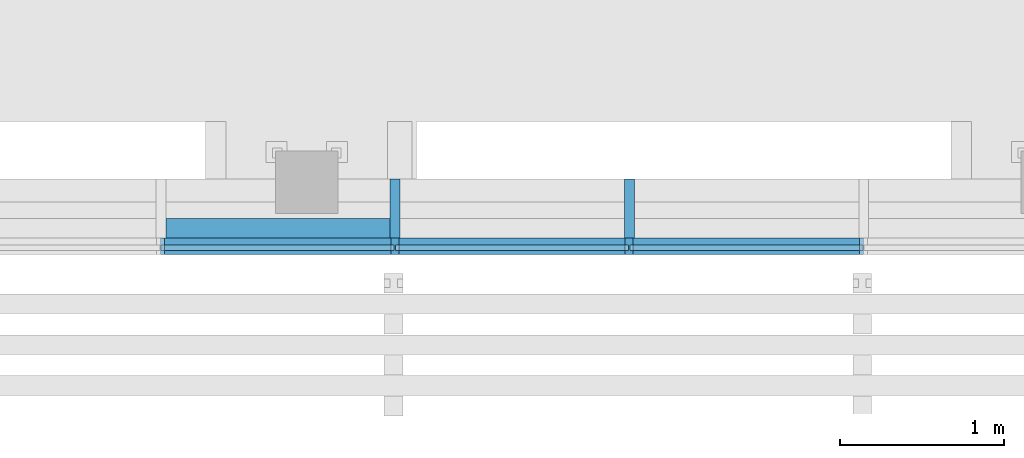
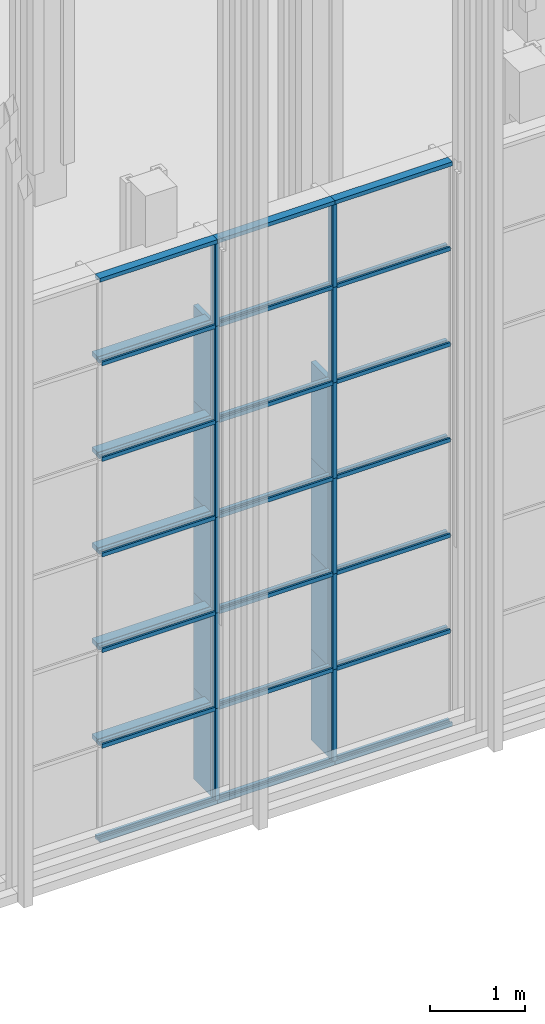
# One storey, part 13 of 260: 47 members, 2 elements without a shape of their own.
"""IFC2X3 building model written with IfcOpenShell, lengths in millimetres."""

from ifc_helpers import new_model, entity, si_unit, converted_unit, derived_unit, money_unit, direction, frame, origin_with_axes, place, context, subcontext, project, spatial, faceted_brep, source, transform, mapped, material, type_object, element, aggregate, save


model = new_model("IFC2X3")

# Units and contexts
model_context = context("Model", 3, precision=0.01, world=origin_with_axes(), true_north=direction((0.0, 1.0)))
body_context = subcontext(model_context, "Body", "Model", "MODEL_VIEW")
ifc_project = project(units=[si_unit("LENGTHUNIT", "METRE", prefix="MILLI"), si_unit("AREAUNIT", "SQUARE_METRE"), si_unit("VOLUMEUNIT", "CUBIC_METRE"), converted_unit("PLANEANGLEUNIT", "DEGREE", entity("IfcPlaneAngleMeasure", 0.0174532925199), si_unit("PLANEANGLEUNIT", "RADIAN"), dimensions=[0, 0, 0, 0, 0, 0, 0]), money_unit("EUR"), converted_unit("TIMEUNIT", "Year", entity("IfcTimeMeasure", 31556926.0), si_unit("TIMEUNIT", "SECOND"), dimensions=[0, 0, 1, 0, 0, 0, 0]), si_unit("MASSUNIT", "GRAM", prefix="KILO"), si_unit("THERMODYNAMICTEMPERATUREUNIT", "DEGREE_CELSIUS"), si_unit("LUMINOUSINTENSITYUNIT", "LUMEN"), si_unit("ENERGYUNIT", "JOULE", prefix="MEGA"), derived_unit("THERMALCONDUCTANCEUNIT", [(si_unit("POWERUNIT", "WATT"), 1), (si_unit("LENGTHUNIT", "METRE"), -1), (si_unit("THERMODYNAMICTEMPERATUREUNIT", "KELVIN"), -1)]), derived_unit("SPECIFICHEATCAPACITYUNIT", [(si_unit("ENERGYUNIT", "JOULE"), 1), (si_unit("MASSUNIT", "GRAM", prefix="KILO"), -1), (si_unit("THERMODYNAMICTEMPERATUREUNIT", "KELVIN"), -1)]), derived_unit("MASSDENSITYUNIT", [(si_unit("MASSUNIT", "GRAM", prefix="KILO"), 1), (si_unit("VOLUMEUNIT", "CUBIC_METRE"), -1)])], contexts=[model_context])

# Site, building, storey
site_placement = place(None, origin_with_axes())
site = spatial("IfcSite", under=ifc_project, at=site_placement, Name="Kolde pst 67a", CompositionType="ELEMENT")
building_placement = place(site_placement, origin_with_axes())
building = spatial("IfcBuilding", under=site, at=building_placement, Name="Riigigümnaasium", CompositionType="ELEMENT")
storey_placement = place(building_placement, origin_with_axes())
storey = spatial("IfcBuildingStorey", under=building, at=storey_placement, Name="1. korrus", CompositionType="ELEMENT", Elevation=0.0)

# Curtain wall, members
curtain_wall_type = type_object("IfcCurtainWallType", Name="Curtain Wall Type", PredefinedType="NOTDEFINED")
curtain_wall_1_placement = place(storey_placement, frame((47829.9854655, 8727.77020058, -0.000749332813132), z_axis=(0.0, 0.0, 1.0), x_axis=(1.0, 0.0, 0.0)))
curtain_wall_1 = element("IfcCurtainWall", 1, at=curtain_wall_1_placement, inside=storey, type_object=curtain_wall_type, Name="KLAASFASSAAD")
ifc_material_1 = material(Name="_METALL - alumiinium")
member_type_1 = type_object("IfcMemberType", Name="Mullion Frame 50 x 100", PredefinedType="MEMBER")
shared_shape_1 = source(origin_with_axes(), body_context, "Body", "Brep", [
    faceted_brep([(5.0, -16.5, 1230.00046362), (5.0, 16.5, 1230.00046362), (25.0, 16.5, 1230.00046362), (25.0, 40.0, 1230.00046362), (-25.0, 40.0, 1230.00046362), (-25.0, 16.5, 1230.00046362), (-5.0, 16.5, 1230.00046362), (-5.0, -16.5, 1230.00046362), (-25.0, -16.5, 1230.00046362), (-25.0, -60.0, 1230.00046362), (25.0, -60.0, 1230.00046362), (25.0, -16.5, 1230.00046362), (5.0, -16.5, 50.0), (5.0, 16.5, 50.0), (25.0, 16.5, 50.0), (25.0, 40.0, 50.0), (-25.0, 40.0, 50.0), (-25.0, 16.5, 50.0), (-5.0, 16.5, 50.0), (-5.0, -16.5, 50.0), (-25.0, -16.5, 50.0), (-25.0, -60.0, 50.0), (25.0, -60.0, 50.0), (25.0, -16.5, 50.0)], [[[0, 1, 2, 3, 4, 5, 6, 7, 8, 9, 10, 11]], [[0, 12, 13, 1]], [[1, 13, 14, 2]], [[14, 15, 3, 2]], [[4, 3, 15, 16]], [[17, 5, 4, 16]], [[5, 17, 18, 6]], [[7, 6, 18, 19]], [[8, 7, 19, 20]], [[8, 20, 21, 9]], [[10, 9, 21, 22]], [[11, 10, 22, 23]], [[11, 23, 12, 0]], [[13, 12, 23, 22, 21, 20, 19, 18, 17, 16, 15, 14]]]),
])
member_1_placement = place(curtain_wall_1_placement, frame((-14162.4150634, 15102.3915495, 0.000285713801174), z_axis=(0.0, 0.0, 1.0), x_axis=(0.999999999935, -1.14108152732e-05, 0.0)))
member_1 = element("IfcMember", 2, at=member_1_placement, type_object=member_type_1, material=ifc_material_1, Name="RF RAAM VERT-107", ObjectType="MEMBER", context=body_context, shape_type="MappedRepresentation", body=[
    mapped(shared_shape_1, transform((0.0, 0.0, 0.0), x_axis=(-1.0, 0.0, 0.0), y_axis=(0.0, -1.0, 0.0), z_axis=(0.0, 0.0, 1.0))),
])
member_2_placement = place(curtain_wall_1_placement, frame((-15592.4150633, 15102.407867, 0.000285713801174), z_axis=(0.0, 0.0, 1.0), x_axis=(0.999999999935, -1.14108152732e-05, 0.0)))
member_2 = element("IfcMember", 3, at=member_2_placement, type_object=member_type_1, material=ifc_material_1, Name="RF RAAM VERT-113", ObjectType="MEMBER", context=body_context, shape_type="MappedRepresentation", body=[
    mapped(shared_shape_1, transform((0.0, 0.0, 0.0), x_axis=(-1.0, 0.0, 0.0), y_axis=(0.0, -1.0, 0.0), z_axis=(0.0, 0.0, 1.0))),
])
shared_shape_2 = source(origin_with_axes(), body_context, "Body", "Brep", [
    faceted_brep([(5.0, -16.5, 1230.0), (5.0, 16.5, 1230.0), (25.0, 16.5, 1230.0), (25.0, 40.0, 1230.0), (-25.0, 40.0, 1230.0), (-25.0, 16.5, 1230.0), (-5.0, 16.5, 1230.0), (-5.0, -16.5, 1230.0), (-25.0, -16.5, 1230.0), (-25.0, -60.0, 1230.0), (25.0, -60.0, 1230.0), (25.0, -16.5, 1230.0), (5.0, -16.5, 0.0), (5.0, 16.5, 0.0), (25.0, 16.5, 0.0), (25.0, 40.0, 0.0), (-25.0, 40.0, 0.0), (-25.0, 16.5, 0.0), (-5.0, 16.5, 0.0), (-5.0, -16.5, 0.0), (-25.0, -16.5, 0.0), (-25.0, -60.0, 0.0), (25.0, -60.0, 0.0), (25.0, -16.5, 0.0)], [[[0, 1, 2, 3, 4, 5, 6, 7, 8, 9, 10, 11]], [[0, 12, 13, 1]], [[1, 13, 14, 2]], [[14, 15, 3, 2]], [[3, 15, 16, 4]], [[17, 5, 4, 16]], [[5, 17, 18, 6]], [[7, 6, 18, 19]], [[8, 7, 19, 20]], [[8, 20, 21, 9]], [[9, 21, 22, 10]], [[11, 10, 22, 23]], [[11, 23, 12, 0]], [[13, 12, 23, 22, 21, 20, 19, 18, 17, 16, 15, 14]]]),
])
member_3_placement = place(curtain_wall_1_placement, frame((-14162.4150634, 15102.3915495, 1230.00074933), z_axis=(0.0, 0.0, 1.0), x_axis=(0.999999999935, -1.14108152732e-05, 0.0)))
member_3 = element("IfcMember", 4, at=member_3_placement, type_object=member_type_1, material=ifc_material_1, Name="RF RAAM VERT-108", ObjectType="MEMBER", context=body_context, shape_type="MappedRepresentation", body=[
    mapped(shared_shape_2, transform((0.0, 0.0, 0.0), x_axis=(-1.0, 0.0, 0.0), y_axis=(0.0, -1.0, 0.0), z_axis=(0.0, 0.0, 1.0))),
])
member_4_placement = place(curtain_wall_1_placement, frame((-14162.4150634, 15102.3915495, 2460.00074933), z_axis=(0.0, 0.0, 1.0), x_axis=(0.999999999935, -1.14108152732e-05, 0.0)))
member_4 = element("IfcMember", 5, at=member_4_placement, type_object=member_type_1, material=ifc_material_1, Name="RF RAAM VERT-109", ObjectType="MEMBER", context=body_context, shape_type="MappedRepresentation", body=[
    mapped(shared_shape_2, transform((0.0, 0.0, 0.0), x_axis=(-1.0, 0.0, 0.0), y_axis=(0.0, -1.0, 0.0), z_axis=(0.0, 0.0, 1.0))),
])
member_5_placement = place(curtain_wall_1_placement, frame((-14162.4150634, 15102.3915495, 3690.00074933), z_axis=(0.0, 0.0, 1.0), x_axis=(0.999999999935, -1.14108152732e-05, 0.0)))
member_5 = element("IfcMember", 6, at=member_5_placement, type_object=member_type_1, material=ifc_material_1, Name="RF RAAM VERT-110", ObjectType="MEMBER", context=body_context, shape_type="MappedRepresentation", body=[
    mapped(shared_shape_2, transform((0.0, 0.0, 0.0), x_axis=(-1.0, 0.0, 0.0), y_axis=(0.0, -1.0, 0.0), z_axis=(0.0, 0.0, 1.0))),
])
member_6_placement = place(curtain_wall_1_placement, frame((-14162.4150634, 15102.3915495, 4920.00074933), z_axis=(0.0, 0.0, 1.0), x_axis=(0.999999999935, -1.14108152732e-05, 0.0)))
member_6 = element("IfcMember", 7, at=member_6_placement, type_object=member_type_1, material=ifc_material_1, Name="RF RAAM VERT-111", ObjectType="MEMBER", context=body_context, shape_type="MappedRepresentation", body=[
    mapped(shared_shape_2, transform((0.0, 0.0, 0.0), x_axis=(-1.0, 0.0, 0.0), y_axis=(0.0, -1.0, 0.0), z_axis=(0.0, 0.0, 1.0))),
])
member_7_placement = place(curtain_wall_1_placement, frame((-15592.4150633, 15102.407867, 1230.00074933), z_axis=(0.0, 0.0, 1.0), x_axis=(0.999999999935, -1.14108152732e-05, 0.0)))
member_7 = element("IfcMember", 8, at=member_7_placement, type_object=member_type_1, material=ifc_material_1, Name="RF RAAM VERT-114", ObjectType="MEMBER", context=body_context, shape_type="MappedRepresentation", body=[
    mapped(shared_shape_2, transform((0.0, 0.0, 0.0), x_axis=(-1.0, 0.0, 0.0), y_axis=(0.0, -1.0, 0.0), z_axis=(0.0, 0.0, 1.0))),
])
member_8_placement = place(curtain_wall_1_placement, frame((-15592.4150633, 15102.407867, 2460.00074933), z_axis=(0.0, 0.0, 1.0), x_axis=(0.999999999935, -1.14108152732e-05, 0.0)))
member_8 = element("IfcMember", 9, at=member_8_placement, type_object=member_type_1, material=ifc_material_1, Name="RF RAAM VERT-115", ObjectType="MEMBER", context=body_context, shape_type="MappedRepresentation", body=[
    mapped(shared_shape_2, transform((0.0, 0.0, 0.0), x_axis=(-1.0, 0.0, 0.0), y_axis=(0.0, -1.0, 0.0), z_axis=(0.0, 0.0, 1.0))),
])
member_9_placement = place(curtain_wall_1_placement, frame((-15592.4150633, 15102.407867, 3690.00074933), z_axis=(0.0, 0.0, 1.0), x_axis=(0.999999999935, -1.14108152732e-05, 0.0)))
member_9 = element("IfcMember", 10, at=member_9_placement, type_object=member_type_1, material=ifc_material_1, Name="RF RAAM VERT-116", ObjectType="MEMBER", context=body_context, shape_type="MappedRepresentation", body=[
    mapped(shared_shape_2, transform((0.0, 0.0, 0.0), x_axis=(-1.0, 0.0, 0.0), y_axis=(0.0, -1.0, 0.0), z_axis=(0.0, 0.0, 1.0))),
])
member_10_placement = place(curtain_wall_1_placement, frame((-15592.4150633, 15102.407867, 4920.00074933), z_axis=(0.0, 0.0, 1.0), x_axis=(0.999999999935, -1.14108152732e-05, 0.0)))
member_10 = element("IfcMember", 11, at=member_10_placement, type_object=member_type_1, material=ifc_material_1, Name="RF RAAM VERT-117", ObjectType="MEMBER", context=body_context, shape_type="MappedRepresentation", body=[
    mapped(shared_shape_2, transform((0.0, 0.0, 0.0), x_axis=(-1.0, 0.0, 0.0), y_axis=(0.0, -1.0, 0.0), z_axis=(0.0, 0.0, 1.0))),
])
member_type_2 = type_object("IfcMemberType", Name="Boundary Frame 50 x 100", PredefinedType="MEMBER")
shared_shape_3 = source(origin_with_axes(), body_context, "Body", "Brep", [
    faceted_brep([(-30.0, -16.5, 1430.0), (-50.0, -16.5, 1430.0), (-50.0, -60.0, 1430.0), (0.0, -60.0, 1430.0), (0.0, 40.0, 1430.0), (-50.0, 40.0, 1430.0), (-50.0, 16.5, 1430.0), (-30.0, 16.5, 1430.0), (-30.0, -16.5, 0.0), (-50.0, -16.5, 0.0), (-50.0, -60.0, 0.0), (0.0, -60.0, 0.0), (0.0, 40.0, 0.0), (-50.0, 40.0, 0.0), (-50.0, 16.5, 0.0), (-30.0, 16.5, 0.0)], [[[0, 1, 2, 3, 4, 5, 6, 7]], [[0, 8, 9, 1]], [[9, 10, 2, 1]], [[10, 11, 3, 2]], [[11, 12, 4, 3]], [[12, 13, 5, 4]], [[6, 5, 13, 14]], [[14, 15, 7, 6]], [[7, 15, 8, 0]], [[8, 15, 14, 13, 12, 11, 10, 9]]]),
])
member_11_placement = place(curtain_wall_1_placement, frame((-12732.4150635, 15102.375232, 0.000285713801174), z_axis=(-0.999999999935, 1.1410815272e-05, 0.0), x_axis=(0.0, 0.0, 1.0)))
member_11 = element("IfcMember", 12, at=member_11_placement, type_object=member_type_2, material=ifc_material_1, Name="RF RAAM SERV-598", ObjectType="MEMBER", context=body_context, shape_type="MappedRepresentation", body=[
    mapped(shared_shape_3, transform((0.0, 0.0, 0.0), x_axis=(-1.0, 0.0, 0.0), y_axis=(0.0, -1.0, 0.0), z_axis=(0.0, 0.0, 1.0))),
])
member_12_placement = place(curtain_wall_1_placement, frame((-14162.4150634, 15102.3915495, 0.000285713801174), z_axis=(-0.999999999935, 1.14108152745e-05, 0.0), x_axis=(0.0, 0.0, 1.0)))
member_12 = element("IfcMember", 13, at=member_12_placement, type_object=member_type_2, material=ifc_material_1, Name="RF RAAM SERV-599", ObjectType="MEMBER", context=body_context, shape_type="MappedRepresentation", body=[
    mapped(shared_shape_3, transform((0.0, 0.0, 0.0), x_axis=(-1.0, 0.0, 0.0), y_axis=(0.0, -1.0, 0.0), z_axis=(0.0, 0.0, 1.0))),
])
member_13_placement = place(curtain_wall_1_placement, frame((-15592.4150633, 15102.407867, 0.000285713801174), z_axis=(-0.999999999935, 1.1410815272e-05, 0.0), x_axis=(0.0, 0.0, 1.0)))
member_13 = element("IfcMember", 14, at=member_13_placement, type_object=member_type_2, material=ifc_material_1, Name="RF RAAM SERV-600", ObjectType="MEMBER", context=body_context, shape_type="MappedRepresentation", body=[
    mapped(shared_shape_3, transform((0.0, 0.0, 0.0), x_axis=(-1.0, 0.0, 0.0), y_axis=(0.0, -1.0, 0.0), z_axis=(0.0, 0.0, 1.0))),
])
member_14_placement = place(curtain_wall_1_placement, frame((-14162.4150634, 15102.3915495, 7259.99992735), z_axis=(0.999999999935, -1.1410815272e-05, 0.0), x_axis=(0.0, 0.0, -1.0)))
member_14 = element("IfcMember", 15, at=member_14_placement, type_object=member_type_2, material=ifc_material_1, Name="RF RAAM SERV-619", ObjectType="MEMBER", context=body_context, shape_type="MappedRepresentation", body=[
    mapped(shared_shape_3, transform((0.0, 0.0, 0.0), x_axis=(-1.0, 0.0, 0.0), y_axis=(0.0, -1.0, 0.0), z_axis=(0.0, 0.0, 1.0))),
])
member_15_placement = place(curtain_wall_1_placement, frame((-15592.4150633, 15102.407867, 7259.99992735), z_axis=(0.999999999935, -1.14108152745e-05, 0.0), x_axis=(0.0, 0.0, -1.0)))
member_15 = element("IfcMember", 16, at=member_15_placement, type_object=member_type_2, material=ifc_material_1, Name="RF RAAM SERV-618", ObjectType="MEMBER", context=body_context, shape_type="MappedRepresentation", body=[
    mapped(shared_shape_3, transform((0.0, 0.0, 0.0), x_axis=(-1.0, 0.0, 0.0), y_axis=(0.0, -1.0, 0.0), z_axis=(0.0, 0.0, 1.0))),
])
member_16_placement = place(curtain_wall_1_placement, frame((-17022.4150632, 15102.4241844, 7259.99992735), z_axis=(0.999999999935, -1.1410815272e-05, 0.0), x_axis=(0.0, 0.0, -1.0)))
member_16 = element("IfcMember", 17, at=member_16_placement, type_object=member_type_2, material=ifc_material_1, Name="RF RAAM SERV-617", ObjectType="MEMBER", context=body_context, shape_type="MappedRepresentation", body=[
    mapped(shared_shape_3, transform((0.0, 0.0, 0.0), x_axis=(-1.0, 0.0, 0.0), y_axis=(0.0, -1.0, 0.0), z_axis=(0.0, 0.0, 1.0))),
])
member_type_3 = type_object("IfcMemberType", Name="Transom Frame 50 x 100", PredefinedType="MEMBER")
shared_shape_4 = source(origin_with_axes(), body_context, "Body", "Brep", [
    faceted_brep([(5.0, -16.5, 1405.0), (5.0, 16.5, 1405.0), (25.0, 16.5, 1405.0), (25.0, 40.0, 1405.0), (-25.0, 40.0, 1405.0), (-25.0, 16.5, 1405.0), (-5.0, 16.5, 1405.0), (-5.0, -16.5, 1405.0), (-25.0, -16.5, 1405.0), (-25.0, -60.0, 1405.0), (25.0, -60.0, 1405.0), (25.0, -16.5, 1405.0), (5.0, -16.5, 25.0), (5.0, 16.5, 25.0), (25.0, 16.5, 25.0), (25.0, 40.0, 25.0), (-25.0, 40.0, 25.0), (-25.0, 16.5, 25.0), (-5.0, 16.5, 25.0), (-5.0, -16.5, 25.0), (-25.0, -16.5, 25.0), (-25.0, -60.0, 25.0), (25.0, -60.0, 25.0), (25.0, -16.5, 25.0)], [[[0, 1, 2, 3, 4, 5, 6, 7, 8, 9, 10, 11]], [[0, 12, 13, 1]], [[1, 13, 14, 2]], [[14, 15, 3, 2]], [[4, 3, 15, 16]], [[17, 5, 4, 16]], [[5, 17, 18, 6]], [[7, 6, 18, 19]], [[8, 7, 19, 20]], [[8, 20, 21, 9]], [[10, 9, 21, 22]], [[11, 10, 22, 23]], [[11, 23, 12, 0]], [[13, 12, 23, 22, 21, 20, 19, 18, 17, 16, 15, 14]]]),
])
member_17_placement = place(curtain_wall_1_placement, frame((-12732.4150635, 15102.375232, 1230.00074933), z_axis=(-0.999999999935, 1.1410815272e-05, 0.0), x_axis=(0.0, 0.0, 1.0)))
member_17 = element("IfcMember", 18, at=member_17_placement, type_object=member_type_3, material=ifc_material_1, Name="RF RAAM HOR-034", ObjectType="MEMBER", context=body_context, shape_type="MappedRepresentation", body=[
    mapped(shared_shape_4, transform((0.0, 0.0, 0.0), x_axis=(-1.0, 0.0, 0.0), y_axis=(0.0, -1.0, 0.0), z_axis=(0.0, 0.0, 1.0))),
])
member_18_placement = place(curtain_wall_1_placement, frame((-14162.4150634, 15102.3915495, 1230.00074933), z_axis=(-0.999999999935, 1.14108152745e-05, 0.0), x_axis=(0.0, 0.0, 1.0)))
member_18 = element("IfcMember", 19, at=member_18_placement, type_object=member_type_3, material=ifc_material_1, Name="RF RAAM HOR-035", ObjectType="MEMBER", context=body_context, shape_type="MappedRepresentation", body=[
    mapped(shared_shape_4, transform((0.0, 0.0, 0.0), x_axis=(-1.0, 0.0, 0.0), y_axis=(0.0, -1.0, 0.0), z_axis=(0.0, 0.0, 1.0))),
])
member_19_placement = place(curtain_wall_1_placement, frame((-15592.4150633, 15102.407867, 1230.00074933), z_axis=(-0.999999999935, 1.1410815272e-05, 0.0), x_axis=(0.0, 0.0, 1.0)))
member_19 = element("IfcMember", 20, at=member_19_placement, type_object=member_type_3, material=ifc_material_1, Name="RF RAAM HOR-036", ObjectType="MEMBER", context=body_context, shape_type="MappedRepresentation", body=[
    mapped(shared_shape_4, transform((0.0, 0.0, 0.0), x_axis=(-1.0, 0.0, 0.0), y_axis=(0.0, -1.0, 0.0), z_axis=(0.0, 0.0, 1.0))),
])
member_20_placement = place(curtain_wall_1_placement, frame((-12732.4150635, 15102.375232, 2460.00074933), z_axis=(-0.999999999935, 1.1410815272e-05, 0.0), x_axis=(0.0, 0.0, 1.0)))
member_20 = element("IfcMember", 21, at=member_20_placement, type_object=member_type_3, material=ifc_material_1, Name="RF RAAM HOR-051", ObjectType="MEMBER", context=body_context, shape_type="MappedRepresentation", body=[
    mapped(shared_shape_4, transform((0.0, 0.0, 0.0), x_axis=(-1.0, 0.0, 0.0), y_axis=(0.0, -1.0, 0.0), z_axis=(0.0, 0.0, 1.0))),
])
member_21_placement = place(curtain_wall_1_placement, frame((-14162.4150634, 15102.3915495, 2460.00074933), z_axis=(-0.999999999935, 1.14108152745e-05, 0.0), x_axis=(0.0, 0.0, 1.0)))
member_21 = element("IfcMember", 22, at=member_21_placement, type_object=member_type_3, material=ifc_material_1, Name="RF RAAM HOR-052", ObjectType="MEMBER", context=body_context, shape_type="MappedRepresentation", body=[
    mapped(shared_shape_4, transform((0.0, 0.0, 0.0), x_axis=(-1.0, 0.0, 0.0), y_axis=(0.0, -1.0, 0.0), z_axis=(0.0, 0.0, 1.0))),
])
member_22_placement = place(curtain_wall_1_placement, frame((-15592.4150633, 15102.407867, 2460.00074933), z_axis=(-0.999999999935, 1.1410815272e-05, 0.0), x_axis=(0.0, 0.0, 1.0)))
member_22 = element("IfcMember", 23, at=member_22_placement, type_object=member_type_3, material=ifc_material_1, Name="RF RAAM HOR-053", ObjectType="MEMBER", context=body_context, shape_type="MappedRepresentation", body=[
    mapped(shared_shape_4, transform((0.0, 0.0, 0.0), x_axis=(-1.0, 0.0, 0.0), y_axis=(0.0, -1.0, 0.0), z_axis=(0.0, 0.0, 1.0))),
])
member_23_placement = place(curtain_wall_1_placement, frame((-12732.4150635, 15102.375232, 3690.00074933), z_axis=(-0.999999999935, 1.1410815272e-05, 0.0), x_axis=(0.0, 0.0, 1.0)))
member_23 = element("IfcMember", 24, at=member_23_placement, type_object=member_type_3, material=ifc_material_1, Name="RF RAAM HOR-068", ObjectType="MEMBER", context=body_context, shape_type="MappedRepresentation", body=[
    mapped(shared_shape_4, transform((0.0, 0.0, 0.0), x_axis=(-1.0, 0.0, 0.0), y_axis=(0.0, -1.0, 0.0), z_axis=(0.0, 0.0, 1.0))),
])
member_24_placement = place(curtain_wall_1_placement, frame((-14162.4150634, 15102.3915495, 3690.00074933), z_axis=(-0.999999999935, 1.14108152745e-05, 0.0), x_axis=(0.0, 0.0, 1.0)))
member_24 = element("IfcMember", 25, at=member_24_placement, type_object=member_type_3, material=ifc_material_1, Name="RF RAAM HOR-069", ObjectType="MEMBER", context=body_context, shape_type="MappedRepresentation", body=[
    mapped(shared_shape_4, transform((0.0, 0.0, 0.0), x_axis=(-1.0, 0.0, 0.0), y_axis=(0.0, -1.0, 0.0), z_axis=(0.0, 0.0, 1.0))),
])
member_25_placement = place(curtain_wall_1_placement, frame((-15592.4150633, 15102.407867, 3690.00074933), z_axis=(-0.999999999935, 1.1410815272e-05, 0.0), x_axis=(0.0, 0.0, 1.0)))
member_25 = element("IfcMember", 26, at=member_25_placement, type_object=member_type_3, material=ifc_material_1, Name="RF RAAM HOR-070", ObjectType="MEMBER", context=body_context, shape_type="MappedRepresentation", body=[
    mapped(shared_shape_4, transform((0.0, 0.0, 0.0), x_axis=(-1.0, 0.0, 0.0), y_axis=(0.0, -1.0, 0.0), z_axis=(0.0, 0.0, 1.0))),
])
member_26_placement = place(curtain_wall_1_placement, frame((-12732.4150635, 15102.375232, 4920.00074933), z_axis=(-0.999999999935, 1.1410815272e-05, 0.0), x_axis=(0.0, 0.0, 1.0)))
member_26 = element("IfcMember", 27, at=member_26_placement, type_object=member_type_3, material=ifc_material_1, Name="RF RAAM HOR-085", ObjectType="MEMBER", context=body_context, shape_type="MappedRepresentation", body=[
    mapped(shared_shape_4, transform((0.0, 0.0, 0.0), x_axis=(-1.0, 0.0, 0.0), y_axis=(0.0, -1.0, 0.0), z_axis=(0.0, 0.0, 1.0))),
])
member_27_placement = place(curtain_wall_1_placement, frame((-14162.4150634, 15102.3915495, 4920.00074933), z_axis=(-0.999999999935, 1.14108152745e-05, 0.0), x_axis=(0.0, 0.0, 1.0)))
member_27 = element("IfcMember", 28, at=member_27_placement, type_object=member_type_3, material=ifc_material_1, Name="RF RAAM HOR-086", ObjectType="MEMBER", context=body_context, shape_type="MappedRepresentation", body=[
    mapped(shared_shape_4, transform((0.0, 0.0, 0.0), x_axis=(-1.0, 0.0, 0.0), y_axis=(0.0, -1.0, 0.0), z_axis=(0.0, 0.0, 1.0))),
])
member_28_placement = place(curtain_wall_1_placement, frame((-15592.4150633, 15102.407867, 4920.00074933), z_axis=(-0.999999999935, 1.1410815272e-05, 0.0), x_axis=(0.0, 0.0, 1.0)))
member_28 = element("IfcMember", 29, at=member_28_placement, type_object=member_type_3, material=ifc_material_1, Name="RF RAAM HOR-087", ObjectType="MEMBER", context=body_context, shape_type="MappedRepresentation", body=[
    mapped(shared_shape_4, transform((0.0, 0.0, 0.0), x_axis=(-1.0, 0.0, 0.0), y_axis=(0.0, -1.0, 0.0), z_axis=(0.0, 0.0, 1.0))),
])
member_29_placement = place(curtain_wall_1_placement, frame((-12732.4150635, 15102.375232, 6150.00074933), z_axis=(-0.999999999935, 1.1410815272e-05, 0.0), x_axis=(0.0, 0.0, 1.0)))
member_29 = element("IfcMember", 30, at=member_29_placement, type_object=member_type_3, material=ifc_material_1, Name="RF RAAM HOR-102", ObjectType="MEMBER", context=body_context, shape_type="MappedRepresentation", body=[
    mapped(shared_shape_4, transform((0.0, 0.0, 0.0), x_axis=(-1.0, 0.0, 0.0), y_axis=(0.0, -1.0, 0.0), z_axis=(0.0, 0.0, 1.0))),
])
member_30_placement = place(curtain_wall_1_placement, frame((-14162.4150634, 15102.3915495, 6150.00074933), z_axis=(-0.999999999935, 1.14108152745e-05, 0.0), x_axis=(0.0, 0.0, 1.0)))
member_30 = element("IfcMember", 31, at=member_30_placement, type_object=member_type_3, material=ifc_material_1, Name="RF RAAM HOR-103", ObjectType="MEMBER", context=body_context, shape_type="MappedRepresentation", body=[
    mapped(shared_shape_4, transform((0.0, 0.0, 0.0), x_axis=(-1.0, 0.0, 0.0), y_axis=(0.0, -1.0, 0.0), z_axis=(0.0, 0.0, 1.0))),
])
member_31_placement = place(curtain_wall_1_placement, frame((-15592.4150633, 15102.407867, 6150.00074933), z_axis=(-0.999999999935, 1.1410815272e-05, 0.0), x_axis=(0.0, 0.0, 1.0)))
member_31 = element("IfcMember", 32, at=member_31_placement, type_object=member_type_3, material=ifc_material_1, Name="RF RAAM HOR-104", ObjectType="MEMBER", context=body_context, shape_type="MappedRepresentation", body=[
    mapped(shared_shape_4, transform((0.0, 0.0, 0.0), x_axis=(-1.0, 0.0, 0.0), y_axis=(0.0, -1.0, 0.0), z_axis=(0.0, 0.0, 1.0))),
])
shared_shape_5 = source(origin_with_axes(), body_context, "Body", "Brep", [
    faceted_brep([(5.0, -16.5, 1059.99917802), (5.0, 16.5, 1059.99917802), (25.0, 16.5, 1059.99917802), (25.0, 40.0, 1059.99917802), (-25.0, 40.0, 1059.99917802), (-25.0, 16.5, 1059.99917802), (-5.0, 16.5, 1059.99917802), (-5.0, -16.5, 1059.99917802), (-25.0, -16.5, 1059.99917802), (-25.0, -60.0, 1059.99917802), (25.0, -60.0, 1059.99917802), (25.0, -16.5, 1059.99917802), (5.0, -16.5, 0.0), (5.0, 16.5, 0.0), (25.0, 16.5, 0.0), (25.0, 40.0, 0.0), (-25.0, 40.0, 0.0), (-25.0, 16.5, 0.0), (-5.0, 16.5, 0.0), (-5.0, -16.5, 0.0), (-25.0, -16.5, 0.0), (-25.0, -60.0, 0.0), (25.0, -60.0, 0.0), (25.0, -16.5, 0.0)], [[[0, 1, 2, 3, 4, 5, 6, 7, 8, 9, 10, 11]], [[0, 12, 13, 1]], [[1, 13, 14, 2]], [[14, 15, 3, 2]], [[3, 15, 16, 4]], [[17, 5, 4, 16]], [[5, 17, 18, 6]], [[7, 6, 18, 19]], [[8, 7, 19, 20]], [[8, 20, 21, 9]], [[9, 21, 22, 10]], [[11, 10, 22, 23]], [[11, 23, 12, 0]], [[13, 12, 23, 22, 21, 20, 19, 18, 17, 16, 15, 14]]]),
])
member_32_placement = place(curtain_wall_1_placement, frame((-14162.4150634, 15102.3915495, 6150.00074933), z_axis=(0.0, 0.0, 1.0), x_axis=(0.999999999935, -1.14108152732e-05, 0.0)))
member_32 = element("IfcMember", 33, at=member_32_placement, type_object=member_type_1, material=ifc_material_1, Name="RF RAAM VERT-083", ObjectType="MEMBER", context=body_context, shape_type="MappedRepresentation", body=[
    mapped(shared_shape_5, transform((0.0, 0.0, 0.0), x_axis=(-1.0, 0.0, 0.0), y_axis=(0.0, -1.0, 0.0), z_axis=(0.0, 0.0, 1.0))),
])
member_33_placement = place(curtain_wall_1_placement, frame((-15592.4150633, 15102.407867, 6150.00074933), z_axis=(0.0, 0.0, 1.0), x_axis=(0.999999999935, -1.14108152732e-05, 0.0)))
member_33 = element("IfcMember", 34, at=member_33_placement, type_object=member_type_1, material=ifc_material_1, Name="RF RAAM VERT-084", ObjectType="MEMBER", context=body_context, shape_type="MappedRepresentation", body=[
    mapped(shared_shape_5, transform((0.0, 0.0, 0.0), x_axis=(-1.0, 0.0, 0.0), y_axis=(0.0, -1.0, 0.0), z_axis=(0.0, 0.0, 1.0))),
])
aggregate(curtain_wall_1, [member_1, member_3, member_4, member_5, member_6, member_2, member_7, member_8, member_9, member_10, member_11, member_12, member_13, member_17, member_18, member_19, member_20, member_21, member_22, member_23, member_24, member_25, member_26, member_27, member_28, member_29, member_30, member_31, member_32, member_33, member_14, member_15, member_16])

curtain_wall_2_placement = place(storey_placement, frame((23890.0026791, 27220.1832522, -0.000253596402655), z_axis=(0.0, 0.0, 1.0), x_axis=(1.0, 0.0, 0.0)))
curtain_wall_2 = element("IfcCurtainWall", 35, at=curtain_wall_2_placement, inside=storey, type_object=curtain_wall_type, Name="Klaasfassaadi puitkarkass")
ifc_material_2 = material(Name="_KANDETARIND - liimpuit vastavalt EK osale")
member_type_4 = type_object("IfcMemberType", Name="Transom Frame 60 x 120", PredefinedType="MEMBER")
shared_shape_6 = source(origin_with_axes(), body_context, "Body", "Brep", [
    faceted_brep([(-30.0, 0.0, 30.0), (-30.0, -120.0, 30.0), (-30.0, -120.0, 1400.0), (-30.0, 0.0, 1400.0), (30.0, 0.0, 30.0), (30.0, -120.0, 30.0), (30.0, -120.0, 1400.0), (30.0, 0.0, 1400.0)], [[[0, 1, 2, 3]], [[1, 0, 4, 5]], [[1, 5, 6, 2]], [[2, 6, 7, 3]], [[4, 0, 3, 7]], [[5, 4, 7, 6]]]),
])
member_34_placement = place(curtain_wall_2_placement, frame((8349.37705572, -3330.16844648, 1230.0002536), z_axis=(-1.0, 0.0, 0.0), x_axis=(0.0, 0.0, 1.0)))
member_34 = element("IfcMember", 36, at=member_34_placement, type_object=member_type_4, material=ifc_material_2, Name="RF RAAM HOR-648", ObjectType="MEMBER", context=body_context, shape_type="MappedRepresentation", body=[
    mapped(shared_shape_6, transform((0.0, 0.0, 0.0), x_axis=(-1.0, 0.0, 0.0), y_axis=(0.0, -1.0, 0.0), z_axis=(0.0, 0.0, 1.0))),
])
member_35_placement = place(curtain_wall_2_placement, frame((8349.37705572, -3330.16844648, 2460.0002536), z_axis=(-1.0, 0.0, 0.0), x_axis=(0.0, 0.0, 1.0)))
member_35 = element("IfcMember", 37, at=member_35_placement, type_object=member_type_4, material=ifc_material_2, Name="RF RAAM HOR-648", ObjectType="MEMBER", context=body_context, shape_type="MappedRepresentation", body=[
    mapped(shared_shape_6, transform((0.0, 0.0, 0.0), x_axis=(-1.0, 0.0, 0.0), y_axis=(0.0, -1.0, 0.0), z_axis=(0.0, 0.0, 1.0))),
])
member_36_placement = place(curtain_wall_2_placement, frame((8349.37705572, -3330.16844648, 3690.0002536), z_axis=(-1.0, 0.0, 0.0), x_axis=(0.0, 0.0, 1.0)))
member_36 = element("IfcMember", 38, at=member_36_placement, type_object=member_type_4, material=ifc_material_2, Name="RF RAAM HOR-648", ObjectType="MEMBER", context=body_context, shape_type="MappedRepresentation", body=[
    mapped(shared_shape_6, transform((0.0, 0.0, 0.0), x_axis=(-1.0, 0.0, 0.0), y_axis=(0.0, -1.0, 0.0), z_axis=(0.0, 0.0, 1.0))),
])
member_37_placement = place(curtain_wall_2_placement, frame((8349.37705572, -3330.16844648, 4920.0002536), z_axis=(-1.0, 0.0, 0.0), x_axis=(0.0, 0.0, 1.0)))
member_37 = element("IfcMember", 39, at=member_37_placement, type_object=member_type_4, material=ifc_material_2, Name="RF RAAM HOR-648", ObjectType="MEMBER", context=body_context, shape_type="MappedRepresentation", body=[
    mapped(shared_shape_6, transform((0.0, 0.0, 0.0), x_axis=(-1.0, 0.0, 0.0), y_axis=(0.0, -1.0, 0.0), z_axis=(0.0, 0.0, 1.0))),
])
member_38_placement = place(curtain_wall_2_placement, frame((8349.37705572, -3330.16844648, 6150.0002536), z_axis=(-1.0, 0.0, 0.0), x_axis=(0.0, 0.0, 1.0)))
member_38 = element("IfcMember", 40, at=member_38_placement, type_object=member_type_4, material=ifc_material_2, Name="RF RAAM HOR-648", ObjectType="MEMBER", context=body_context, shape_type="MappedRepresentation", body=[
    mapped(shared_shape_6, transform((0.0, 0.0, 0.0), x_axis=(-1.0, 0.0, 0.0), y_axis=(0.0, -1.0, 0.0), z_axis=(0.0, 0.0, 1.0))),
])
member_type_5 = type_object("IfcMemberType", Name="Mullion Frame 60 x 360", PredefinedType="MEMBER")
shared_shape_7 = source(origin_with_axes(), body_context, "Body", "Brep", [
    faceted_brep([(-30.0, 0.0, 60.0), (-30.0, -360.0, 60.0), (-30.0, -360.0, 1230.0002536), (-30.0, 0.0, 1230.0002536), (30.0, 0.0, 60.0), (30.0, -360.0, 60.0), (30.0, -360.0, 1230.0002536), (30.0, 0.0, 1230.0002536)], [[[0, 1, 2, 3]], [[1, 0, 4, 5]], [[1, 5, 6, 2]], [[2, 6, 7, 3]], [[4, 0, 3, 7]], [[5, 4, 7, 6]]]),
])
member_39_placement = place(curtain_wall_2_placement, frame((9779.37705572, -3330.16844635, 0.000124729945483), z_axis=(0.0, 0.0, 1.0), x_axis=(1.0, 0.0, 0.0)))
member_39 = element("IfcMember", 41, at=member_39_placement, type_object=member_type_5, material=ifc_material_2, Name="RF RAAM VERT-837", ObjectType="MEMBER", context=body_context, shape_type="MappedRepresentation", body=[
    mapped(shared_shape_7, transform((0.0, 0.0, 0.0), x_axis=(-1.0, 0.0, 0.0), y_axis=(0.0, -1.0, 0.0), z_axis=(0.0, 0.0, 1.0))),
])
member_40_placement = place(curtain_wall_2_placement, frame((8349.37705572, -3330.16844648, 0.000124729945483), z_axis=(0.0, 0.0, 1.0), x_axis=(1.0, 0.0, 0.0)))
member_40 = element("IfcMember", 42, at=member_40_placement, type_object=member_type_5, material=ifc_material_2, Name="RF RAAM VERT-837", ObjectType="MEMBER", context=body_context, shape_type="MappedRepresentation", body=[
    mapped(shared_shape_7, transform((0.0, 0.0, 0.0), x_axis=(-1.0, 0.0, 0.0), y_axis=(0.0, -1.0, 0.0), z_axis=(0.0, 0.0, 1.0))),
])
shared_shape_8 = source(origin_with_axes(), body_context, "Body", "Brep", [
    faceted_brep([(-30.0, -360.0, 0.0), (-30.0, -360.0, 1230.0), (-30.0, 0.0, 1230.0), (-30.0, 0.0, 0.0), (30.0, -360.0, 0.0), (30.0, -360.0, 1230.0), (30.0, 0.0, 1230.0), (30.0, 0.0, 0.0)], [[[0, 1, 2, 3]], [[4, 5, 1, 0]], [[1, 5, 6, 2]], [[3, 2, 6, 7]], [[0, 3, 7, 4]], [[7, 6, 5, 4]]]),
])
member_41_placement = place(curtain_wall_2_placement, frame((9779.37705572, -3330.16844635, 1230.0002536), z_axis=(0.0, 0.0, 1.0), x_axis=(1.0, 0.0, 0.0)))
member_41 = element("IfcMember", 43, at=member_41_placement, type_object=member_type_5, material=ifc_material_2, Name="RF RAAM VERT-837", ObjectType="MEMBER", context=body_context, shape_type="MappedRepresentation", body=[
    mapped(shared_shape_8, transform((0.0, 0.0, 0.0), x_axis=(-1.0, 0.0, 0.0), y_axis=(0.0, -1.0, 0.0), z_axis=(0.0, 0.0, 1.0))),
])
member_42_placement = place(curtain_wall_2_placement, frame((9779.37705572, -3330.16844635, 2460.0002536), z_axis=(0.0, 0.0, 1.0), x_axis=(1.0, 0.0, 0.0)))
member_42 = element("IfcMember", 44, at=member_42_placement, type_object=member_type_5, material=ifc_material_2, Name="RF RAAM VERT-837", ObjectType="MEMBER", context=body_context, shape_type="MappedRepresentation", body=[
    mapped(shared_shape_8, transform((0.0, 0.0, 0.0), x_axis=(-1.0, 0.0, 0.0), y_axis=(0.0, -1.0, 0.0), z_axis=(0.0, 0.0, 1.0))),
])
member_43_placement = place(curtain_wall_2_placement, frame((9779.37705572, -3330.16844635, 3690.0002536), z_axis=(0.0, 0.0, 1.0), x_axis=(1.0, 0.0, 0.0)))
member_43 = element("IfcMember", 45, at=member_43_placement, type_object=member_type_5, material=ifc_material_2, Name="RF RAAM VERT-837", ObjectType="MEMBER", context=body_context, shape_type="MappedRepresentation", body=[
    mapped(shared_shape_8, transform((0.0, 0.0, 0.0), x_axis=(-1.0, 0.0, 0.0), y_axis=(0.0, -1.0, 0.0), z_axis=(0.0, 0.0, 1.0))),
])
member_44_placement = place(curtain_wall_2_placement, frame((8349.37705572, -3330.16844648, 1230.0002536), z_axis=(0.0, 0.0, 1.0), x_axis=(1.0, 0.0, 0.0)))
member_44 = element("IfcMember", 46, at=member_44_placement, type_object=member_type_5, material=ifc_material_2, Name="RF RAAM VERT-837", ObjectType="MEMBER", context=body_context, shape_type="MappedRepresentation", body=[
    mapped(shared_shape_8, transform((0.0, 0.0, 0.0), x_axis=(-1.0, 0.0, 0.0), y_axis=(0.0, -1.0, 0.0), z_axis=(0.0, 0.0, 1.0))),
])
member_45_placement = place(curtain_wall_2_placement, frame((8349.37705572, -3330.16844648, 2460.0002536), z_axis=(0.0, 0.0, 1.0), x_axis=(1.0, 0.0, 0.0)))
member_45 = element("IfcMember", 47, at=member_45_placement, type_object=member_type_5, material=ifc_material_2, Name="RF RAAM VERT-837", ObjectType="MEMBER", context=body_context, shape_type="MappedRepresentation", body=[
    mapped(shared_shape_8, transform((0.0, 0.0, 0.0), x_axis=(-1.0, 0.0, 0.0), y_axis=(0.0, -1.0, 0.0), z_axis=(0.0, 0.0, 1.0))),
])
member_46_placement = place(curtain_wall_2_placement, frame((8349.37705572, -3330.16844648, 3690.0002536), z_axis=(0.0, 0.0, 1.0), x_axis=(1.0, 0.0, 0.0)))
member_46 = element("IfcMember", 48, at=member_46_placement, type_object=member_type_5, material=ifc_material_2, Name="RF RAAM VERT-837", ObjectType="MEMBER", context=body_context, shape_type="MappedRepresentation", body=[
    mapped(shared_shape_8, transform((0.0, 0.0, 0.0), x_axis=(-1.0, 0.0, 0.0), y_axis=(0.0, -1.0, 0.0), z_axis=(0.0, 0.0, 1.0))),
])
member_47_placement = place(curtain_wall_2_placement, frame((8349.37705572, -3330.16844648, 4920.0002536), z_axis=(0.0, 0.0, 1.0), x_axis=(1.0, 0.0, 0.0)))
member_47 = element("IfcMember", 49, at=member_47_placement, type_object=member_type_5, material=ifc_material_2, Name="RF RAAM VERT-837", ObjectType="MEMBER", context=body_context, shape_type="MappedRepresentation", body=[
    mapped(shared_shape_8, transform((0.0, 0.0, 0.0), x_axis=(-1.0, 0.0, 0.0), y_axis=(0.0, -1.0, 0.0), z_axis=(0.0, 0.0, 1.0))),
])
aggregate(curtain_wall_2, [member_39, member_41, member_42, member_43, member_40, member_44, member_45, member_46, member_47, member_34, member_35, member_36, member_37, member_38])

save(model, "model.ifc")
